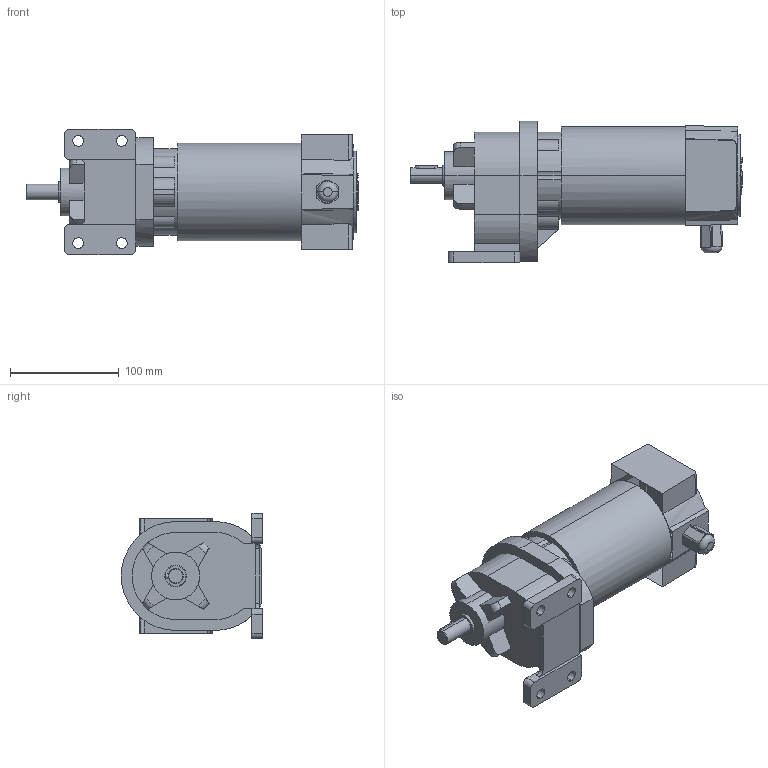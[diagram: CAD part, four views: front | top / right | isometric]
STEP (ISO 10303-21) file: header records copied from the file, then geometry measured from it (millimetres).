
FILE_DESCRIPTION(('OneSpaceDesigner STEP Export'),'2;1');
FILE_NAME('EPG21_S30.stp','2008-07-17T 9:47:28',(''),(''),'OneSpace Designer STEP processor (Jan. 2003) for AP214(CD)(Solid Model)','OneSpace Designer 12.01D 09-Jul-2004 (C) CoCreate Software GmbH','');
FILE_SCHEMA(('AUTOMOTIVE_DESIGN_CC2 {1 2 10303 214 -1 1 5 1}'));
Length unit declared in the file: millimetre
Products named in the file (2): EPG21_S30
Assembly tree (1 placements, depth 2):
  EPG21_S30
    EPG21_S30
Bounding box: 305 x 130 x 115 mm (x, y, z)
Volume: 1864184.3 mm3; surface area: 124968.3 mm2
Topology: 1 solids, 1 shells, 152 faces, 411 edges, 271 vertices
Faces by surface type: plane 80, cylinder 60, torus 6, cone 4, bspline 2
Entity records: 7499 total; most frequent: CARTESIAN_POINT 3762, ORIENTED_EDGE 822, DIRECTION 706, EDGE_CURVE 411, VERTEX_POINT 271, AXIS2_PLACEMENT_3D 241, VECTOR 224, LINE 224
